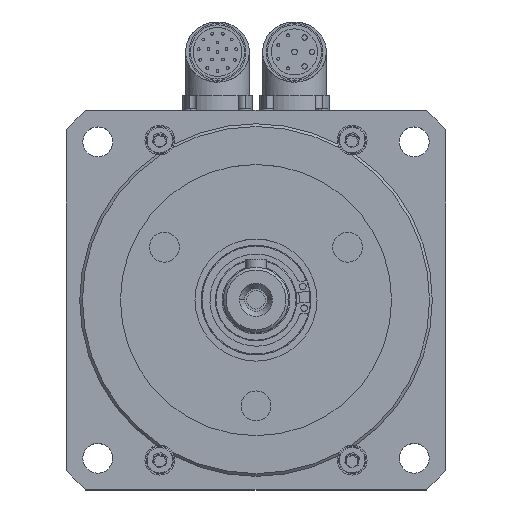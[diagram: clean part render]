
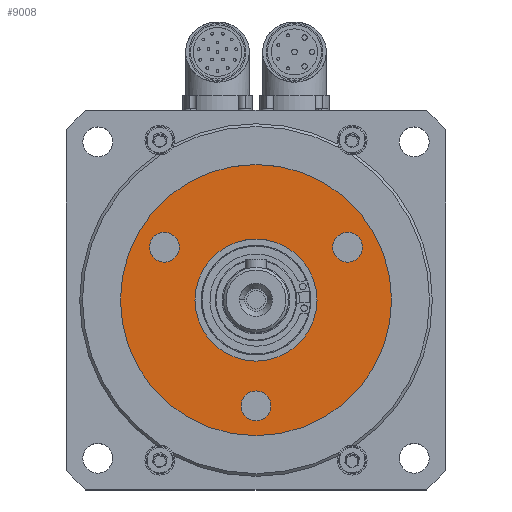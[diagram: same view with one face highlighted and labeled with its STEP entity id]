
A CAD part, top view. The second image highlights one B-rep face of the part: STEP entity #9008.
In plain terms, the highlighted planar face has unit normal (0, 0, 1).
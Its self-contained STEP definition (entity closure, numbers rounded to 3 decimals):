
#1249 = EDGE_CURVE ( 'NONE', #9651, #8571, #3770, .T. ) ;
#1250 = EDGE_CURVE ( 'NONE', #9650, #9630, #3772, .T. ) ;
#1252 = EDGE_CURVE ( 'NONE', #9623, #8562, #3775, .T. ) ;
#1457 = EDGE_LOOP ( 'NONE', ( #5205, #5206 ) ) ;
#1458 = EDGE_LOOP ( 'NONE', ( #5203, #5204 ) ) ;
#1459 = EDGE_LOOP ( 'NONE', ( #5199, #5200 ) ) ;
#2131 = EDGE_LOOP ( 'NONE', ( #14795, #5198 ) ) ;
#2162 = EDGE_LOOP ( 'NONE', ( #5201, #5202 ) ) ;
#2661 = PLANE ( 'NONE',  #8822 ) ;
#2662 = CARTESIAN_POINT ( 'NONE',  ( 0., 50., 21.5 ) ) ;
#2666 = DIRECTION ( 'NONE',  ( 0., 0., 1. ) ) ;
#2667 = DIRECTION ( 'NONE',  ( 1., 0., 0. ) ) ;
#3366 = CARTESIAN_POINT ( 'NONE',  ( -22.5, 0., 21.5 ) ) ;
#3393 = CARTESIAN_POINT ( 'NONE',  ( -50., 0., 21.5 ) ) ;
#3397 = CARTESIAN_POINT ( 'NONE',  ( 22.5, 0., 21.5 ) ) ;
#3400 = CARTESIAN_POINT ( 'NONE',  ( 39.275, 19.5, 21.5 ) ) ;
#3770 = CIRCLE ( 'NONE', #7664, 5.5 ) ;
#3772 = CIRCLE ( 'NONE', #7666, 5.5 ) ;
#3775 = CIRCLE ( 'NONE', #7670, 50. ) ;
#4551 = AXIS2_PLACEMENT_3D ( 'NONE', #14298, #14309, #14310 ) ;
#4704 = CIRCLE ( 'NONE', #11046, 5.5 ) ;
#4708 = CIRCLE ( 'NONE', #11050, 5.5 ) ;
#4710 = CIRCLE ( 'NONE', #11052, 5.5 ) ;
#4712 = CIRCLE ( 'NONE', #11055, 50. ) ;
#4923 = EDGE_CURVE ( 'NONE', #9649, #8593, #4704, .T. ) ;
#4927 = EDGE_CURVE ( 'NONE', #9630, #9650, #4708, .T. ) ;
#4929 = EDGE_CURVE ( 'NONE', #8571, #9651, #4710, .T. ) ;
#4931 = EDGE_CURVE ( 'NONE', #8562, #9623, #4712, .T. ) ;
#5198 = ORIENTED_EDGE ( 'NONE', *, *, #1249, .F. ) ;
#5199 = ORIENTED_EDGE ( 'NONE', *, *, #4927, .F. ) ;
#5200 = ORIENTED_EDGE ( 'NONE', *, *, #1250, .F. ) ;
#5201 = ORIENTED_EDGE ( 'NONE', *, *, #4923, .F. ) ;
#5202 = ORIENTED_EDGE ( 'NONE', *, *, #7485, .F. ) ;
#5203 = ORIENTED_EDGE ( 'NONE', *, *, #4931, .T. ) ;
#5204 = ORIENTED_EDGE ( 'NONE', *, *, #1252, .T. ) ;
#5205 = ORIENTED_EDGE ( 'NONE', *, *, #13258, .F. ) ;
#5206 = ORIENTED_EDGE ( 'NONE', *, *, #7489, .F. ) ;
#6208 = CARTESIAN_POINT ( 'NONE',  ( 0., -39., 21.5 ) ) ;
#6209 = DIRECTION ( 'NONE',  ( 0., 0., 1. ) ) ;
#6210 = DIRECTION ( 'NONE',  ( 1., 0., 0. ) ) ;
#6220 = CARTESIAN_POINT ( 'NONE',  ( 33.775, 19.5, 21.5 ) ) ;
#6221 = DIRECTION ( 'NONE',  ( 0., 0., 1. ) ) ;
#6222 = DIRECTION ( 'NONE',  ( 1., 0., 0. ) ) ;
#6226 = CARTESIAN_POINT ( 'NONE',  ( -33.775, 19.5, 21.5 ) ) ;
#6227 = CARTESIAN_POINT ( 'NONE',  ( 0., 0., 21.5 ) ) ;
#6228 = DIRECTION ( 'NONE',  ( 0., 0., 1. ) ) ;
#6229 = DIRECTION ( 'NONE',  ( 1., 0., 0. ) ) ;
#6234 = DIRECTION ( 'NONE',  ( 0., 0., 1. ) ) ;
#6235 = DIRECTION ( 'NONE',  ( 1., 0., 0. ) ) ;
#7253 = CIRCLE ( 'NONE', #4551, 22.5 ) ;
#7485 = EDGE_CURVE ( 'NONE', #8593, #9649, #12315, .T. ) ;
#7489 = EDGE_CURVE ( 'NONE', #9596, #9627, #12322, .T. ) ;
#7664 = AXIS2_PLACEMENT_3D ( 'NONE', #7924, #7925, #7926 ) ;
#7666 = AXIS2_PLACEMENT_3D ( 'NONE', #7927, #7928, #7929 ) ;
#7670 = AXIS2_PLACEMENT_3D ( 'NONE', #7930, #7933, #7935 ) ;
#7924 = CARTESIAN_POINT ( 'NONE',  ( -33.775, 19.5, 21.5 ) ) ;
#7925 = DIRECTION ( 'NONE',  ( 0., 0., 1. ) ) ;
#7926 = DIRECTION ( 'NONE',  ( 1., 0., 0. ) ) ;
#7927 = CARTESIAN_POINT ( 'NONE',  ( 33.775, 19.5, 21.5 ) ) ;
#7928 = DIRECTION ( 'NONE',  ( 0., 0., 1. ) ) ;
#7929 = DIRECTION ( 'NONE',  ( 1., 0., 0. ) ) ;
#7930 = CARTESIAN_POINT ( 'NONE',  ( 0., 0., 21.5 ) ) ;
#7933 = DIRECTION ( 'NONE',  ( 0., 0., 1. ) ) ;
#7935 = DIRECTION ( 'NONE',  ( 1., 0., 0. ) ) ;
#8562 = VERTEX_POINT ( 'NONE', #15263 ) ;
#8571 = VERTEX_POINT ( 'NONE', #15272 ) ;
#8593 = VERTEX_POINT ( 'NONE', #15294 ) ;
#8601 = AXIS2_PLACEMENT_3D ( 'NONE', #13713, #13715, #13716 ) ;
#8618 = AXIS2_PLACEMENT_3D ( 'NONE', #13724, #13725, #13726 ) ;
#8822 = AXIS2_PLACEMENT_3D ( 'NONE', #2662, #2666, #2667 ) ;
#9008 = ADVANCED_FACE ( 'NONE', ( #10714, #10721, #10723, #10725, #10716 ), #2661, .T. ) ;
#9596 = VERTEX_POINT ( 'NONE', #3366 ) ;
#9623 = VERTEX_POINT ( 'NONE', #3393 ) ;
#9627 = VERTEX_POINT ( 'NONE', #3397 ) ;
#9630 = VERTEX_POINT ( 'NONE', #3400 ) ;
#9649 = VERTEX_POINT ( 'NONE', #13800 ) ;
#9650 = VERTEX_POINT ( 'NONE', #13801 ) ;
#9651 = VERTEX_POINT ( 'NONE', #13803 ) ;
#10714 = FACE_BOUND ( 'NONE', #2131, .T. ) ;
#10716 = FACE_BOUND ( 'NONE', #1457, .T. ) ;
#10721 = FACE_BOUND ( 'NONE', #1459, .T. ) ;
#10723 = FACE_BOUND ( 'NONE', #2162, .T. ) ;
#10725 = FACE_OUTER_BOUND ( 'NONE', #1458, .T. ) ;
#11046 = AXIS2_PLACEMENT_3D ( 'NONE', #6208, #6209, #6210 ) ;
#11050 = AXIS2_PLACEMENT_3D ( 'NONE', #6220, #6221, #6222 ) ;
#11052 = AXIS2_PLACEMENT_3D ( 'NONE', #6226, #6228, #6229 ) ;
#11055 = AXIS2_PLACEMENT_3D ( 'NONE', #6227, #6234, #6235 ) ;
#12315 = CIRCLE ( 'NONE', #8601, 5.5 ) ;
#12322 = CIRCLE ( 'NONE', #8618, 22.5 ) ;
#13258 = EDGE_CURVE ( 'NONE', #9627, #9596, #7253, .T. ) ;
#13713 = CARTESIAN_POINT ( 'NONE',  ( 0., -39., 21.5 ) ) ;
#13715 = DIRECTION ( 'NONE',  ( 0., 0., 1. ) ) ;
#13716 = DIRECTION ( 'NONE',  ( 1., 0., 0. ) ) ;
#13724 = CARTESIAN_POINT ( 'NONE',  ( 0., 0., 21.5 ) ) ;
#13725 = DIRECTION ( 'NONE',  ( 0., 0., 1. ) ) ;
#13726 = DIRECTION ( 'NONE',  ( 1., 0., 0. ) ) ;
#13800 = CARTESIAN_POINT ( 'NONE',  ( 5.5, -39., 21.5 ) ) ;
#13801 = CARTESIAN_POINT ( 'NONE',  ( 28.275, 19.5, 21.5 ) ) ;
#13803 = CARTESIAN_POINT ( 'NONE',  ( -39.275, 19.5, 21.5 ) ) ;
#14298 = CARTESIAN_POINT ( 'NONE',  ( 0., 0., 21.5 ) ) ;
#14309 = DIRECTION ( 'NONE',  ( 0., 0., 1. ) ) ;
#14310 = DIRECTION ( 'NONE',  ( 1., 0., 0. ) ) ;
#14795 = ORIENTED_EDGE ( 'NONE', *, *, #4929, .F. ) ;
#15263 = CARTESIAN_POINT ( 'NONE',  ( 50., 0., 21.5 ) ) ;
#15272 = CARTESIAN_POINT ( 'NONE',  ( -28.275, 19.5, 21.5 ) ) ;
#15294 = CARTESIAN_POINT ( 'NONE',  ( -5.5, -39., 21.5 ) ) ;
